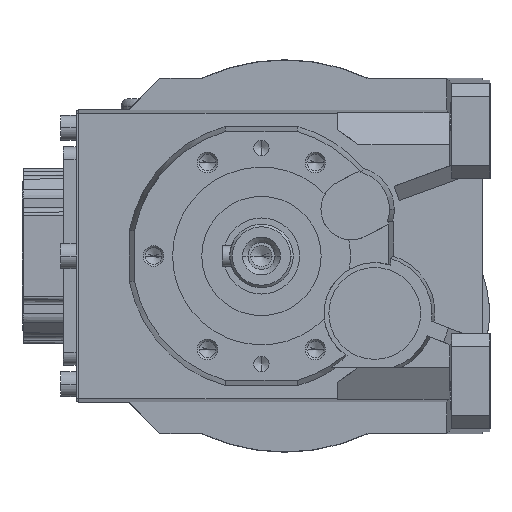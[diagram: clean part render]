
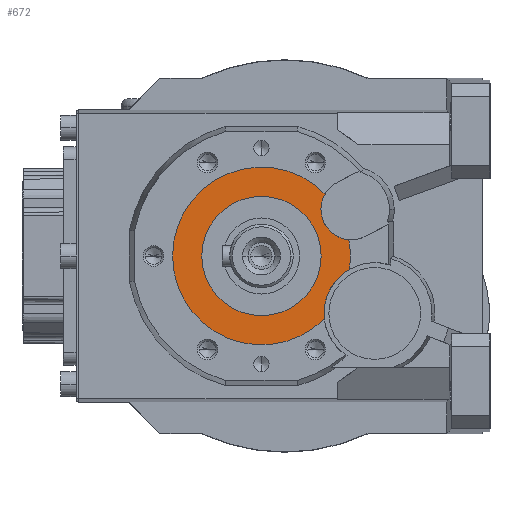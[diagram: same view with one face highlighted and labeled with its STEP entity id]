
A CAD part, left-side view. The second image highlights one B-rep face of the part: STEP entity #672.
In plain terms, the highlighted planar face has unit normal (-1, 0, 0).
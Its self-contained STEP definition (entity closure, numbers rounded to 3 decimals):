
#672 = ADVANCED_FACE( '', ( #3057, #3058 ), #3059, .T. );
#3057 = FACE_BOUND( '', #7631, .T. );
#3058 = FACE_OUTER_BOUND( '', #7632, .T. );
#3059 = PLANE( '', #7633 );
#7631 = EDGE_LOOP( '', ( #13261, #13262 ) );
#7632 = EDGE_LOOP( '', ( #13263, #13264, #13265, #13266, #13267, #13268 ) );
#7633 = AXIS2_PLACEMENT_3D( '', #13269, #13270, #13271 );
#13261 = ORIENTED_EDGE( '', *, *, #30825, .T. );
#13262 = ORIENTED_EDGE( '', *, *, #31220, .T. );
#13263 = ORIENTED_EDGE( '', *, *, #31227, .T. );
#13264 = ORIENTED_EDGE( '', *, *, #30819, .F. );
#13265 = ORIENTED_EDGE( '', *, *, #31234, .F. );
#13266 = ORIENTED_EDGE( '', *, *, #31235, .T. );
#13267 = ORIENTED_EDGE( '', *, *, #31236, .F. );
#13268 = ORIENTED_EDGE( '', *, *, #30709, .F. );
#13269 = CARTESIAN_POINT( '', ( -138., 26.7, 0. ) );
#13270 = DIRECTION( '', ( -1., 0., 0. ) );
#13271 = DIRECTION( '', ( 0., -1., 0. ) );
#30709 = EDGE_CURVE( '', #36818, #36814, #36820, .T. );
#30819 = EDGE_CURVE( '', #37018, #37021, #37022, .T. );
#30825 = EDGE_CURVE( '', #37027, #37031, #37033, .T. );
#31220 = EDGE_CURVE( '', #37031, #37027, #37695, .T. );
#31227 = EDGE_CURVE( '', #36818, #37021, #37706, .T. );
#31234 = EDGE_CURVE( '', #37717, #37018, #37718, .T. );
#31235 = EDGE_CURVE( '', #37717, #37719, #37720, .T. );
#31236 = EDGE_CURVE( '', #36814, #37719, #37721, .T. );
#36814 = VERTEX_POINT( '', #46973 );
#36818 = VERTEX_POINT( '', #46978 );
#36820 = CIRCLE( '', #46981, 35. );
#37018 = VERTEX_POINT( '', #47240 );
#37021 = VERTEX_POINT( '', #47244 );
#37022 = CIRCLE( '', #47245, 35. );
#37027 = VERTEX_POINT( '', #47251 );
#37031 = VERTEX_POINT( '', #47256 );
#37033 = CIRCLE( '', #47259, 23.5 );
#37695 = CIRCLE( '', #48317, 23.5 );
#37706 = CIRCLE( '', #48330, 12. );
#37717 = VERTEX_POINT( '', #48355 );
#37718 = CIRCLE( '', #48356, 35. );
#37719 = VERTEX_POINT( '', #48357 );
#37720 = CIRCLE( '', #48358, 20. );
#37721 = CIRCLE( '', #48359, 35. );
#46973 = CARTESIAN_POINT( '', ( -138., -25.8, 0. ) );
#46978 = CARTESIAN_POINT( '', ( -138., -25.206, 6.421 ) );
#46981 = AXIS2_PLACEMENT_3D( '', #62872, #62873, #62874 );
#47240 = CARTESIAN_POINT( '', ( -138., 44.2, 0. ) );
#47244 = CARTESIAN_POINT( '', ( -138., -15.847, 24.447 ) );
#47245 = AXIS2_PLACEMENT_3D( '', #63081, #63082, #63083 );
#47251 = CARTESIAN_POINT( '', ( -138., 32.7, 0. ) );
#47256 = CARTESIAN_POINT( '', ( -138., -14.3, 0. ) );
#47259 = AXIS2_PLACEMENT_3D( '', #63093, #63094, #63095 );
#48317 = AXIS2_PLACEMENT_3D( '', #63667, #63668, #63669 );
#48330 = AXIS2_PLACEMENT_3D( '', #63684, #63685, #63686 );
#48355 = CARTESIAN_POINT( '', ( -138., -15.519, -24.778 ) );
#48356 = AXIS2_PLACEMENT_3D( '', #63692, #63693, #63694 );
#48357 = CARTESIAN_POINT( '', ( -138., -25.399, -5.28 ) );
#48358 = AXIS2_PLACEMENT_3D( '', #63695, #63696, #63697 );
#48359 = AXIS2_PLACEMENT_3D( '', #63698, #63699, #63700 );
#62872 = CARTESIAN_POINT( '', ( -138., 9.2, 0. ) );
#62873 = DIRECTION( '', ( 1., 0., 0. ) );
#62874 = DIRECTION( '', ( 0., 1., 0. ) );
#63081 = CARTESIAN_POINT( '', ( -138., 9.2, 0. ) );
#63082 = DIRECTION( '', ( 1., 0., 0. ) );
#63083 = DIRECTION( '', ( 0., 1., 0. ) );
#63093 = CARTESIAN_POINT( '', ( -138., 9.2, 0. ) );
#63094 = DIRECTION( '', ( 1., 0., 0. ) );
#63095 = DIRECTION( '', ( 0., 1., 0. ) );
#63667 = CARTESIAN_POINT( '', ( -138., 9.2, 0. ) );
#63668 = DIRECTION( '', ( 1., 0., 0. ) );
#63669 = DIRECTION( '', ( 0., 1., 0. ) );
#63684 = CARTESIAN_POINT( '', ( -138., -26.2, 18.38 ) );
#63685 = DIRECTION( '', ( 1., 0., 0. ) );
#63686 = DIRECTION( '', ( 0., 0.462, 0.887 ) );
#63692 = CARTESIAN_POINT( '', ( -138., 9.2, 0. ) );
#63693 = DIRECTION( '', ( 1., 0., 0. ) );
#63694 = DIRECTION( '', ( 0., 1., 0. ) );
#63695 = CARTESIAN_POINT( '', ( -138., -35.4, -22.6 ) );
#63696 = DIRECTION( '', ( 1., 0., 0. ) );
#63697 = DIRECTION( '', ( 0., 0., 1. ) );
#63698 = CARTESIAN_POINT( '', ( -138., 9.2, 0. ) );
#63699 = DIRECTION( '', ( 1., 0., 0. ) );
#63700 = DIRECTION( '', ( 0., 1., 0. ) );
